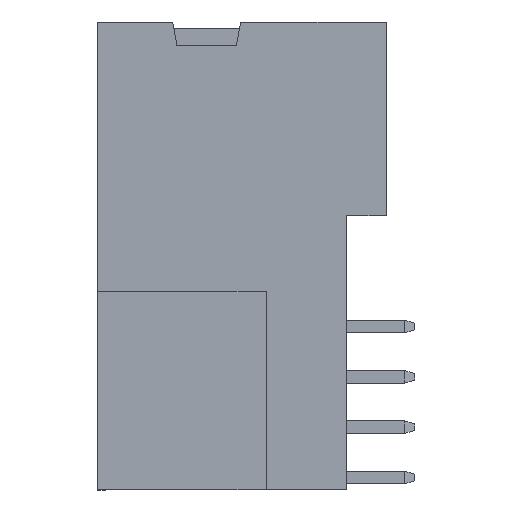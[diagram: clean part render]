
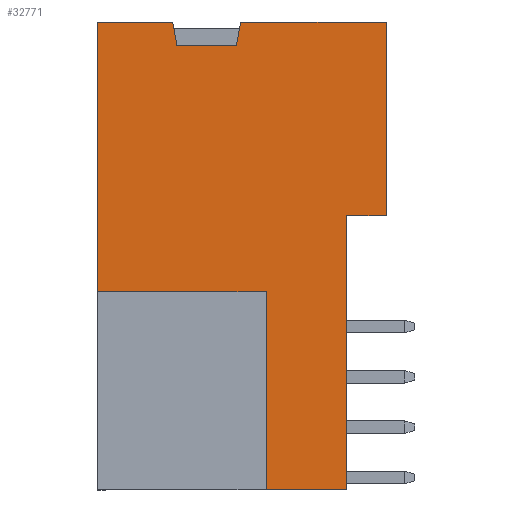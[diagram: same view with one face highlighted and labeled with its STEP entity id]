
A CAD part, left-side view. The second image highlights one B-rep face of the part: STEP entity #32771.
In plain terms, the highlighted planar face has unit normal (-1, 0, 0).
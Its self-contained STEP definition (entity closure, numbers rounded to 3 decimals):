
#62 = CARTESIAN_POINT ( 'NONE',  ( -58.836, 11.376, 10.61 ) ) ;
#90 = CARTESIAN_POINT ( 'NONE',  ( -58.836, 14.376, 10.61 ) ) ;
#368 = LINE ( 'NONE', #389, #9968 ) ;
#389 = CARTESIAN_POINT ( 'NONE',  ( -58.836, 18.346, -1.81 ) ) ;
#390 = LINE ( 'NONE', #407, #9050 ) ;
#391 = DIRECTION ( 'NONE',  ( 0., -1., 0. ) ) ;
#395 = LINE ( 'NONE', #419, #9614 ) ;
#400 = LINE ( 'NONE', #401, #9807 ) ;
#401 = CARTESIAN_POINT ( 'NONE',  ( -58.836, 18.346, 11.81 ) ) ;
#402 = DIRECTION ( 'NONE',  ( 0., 1., 0. ) ) ;
#407 = CARTESIAN_POINT ( 'NONE',  ( -58.836, 10.662, -10.455 ) ) ;
#408 = DIRECTION ( 'NONE',  ( 0., 0.174, 0.985 ) ) ;
#412 = LINE ( 'NONE', #413, #9159 ) ;
#413 = CARTESIAN_POINT ( 'NONE',  ( -58.836, 11.376, 10.61 ) ) ;
#414 = DIRECTION ( 'NONE',  ( 0., 1., 0. ) ) ;
#419 = CARTESIAN_POINT ( 'NONE',  ( -58.836, 15.421, -12.326 ) ) ;
#420 = DIRECTION ( 'NONE',  ( 0., 0.174, -0.985 ) ) ;
#424 = LINE ( 'NONE', #425, #9752 ) ;
#425 = CARTESIAN_POINT ( 'NONE',  ( -58.836, 18.346, 11.81 ) ) ;
#426 = DIRECTION ( 'NONE',  ( 0., 1., 0. ) ) ;
#433 = LINE ( 'NONE', #434, #9695 ) ;
#434 = CARTESIAN_POINT ( 'NONE',  ( -58.836, 3.806, -11.81 ) ) ;
#435 = DIRECTION ( 'NONE',  ( 0., 0., 1. ) ) ;
#1631 = LINE ( 'NONE', #1632, #9262 ) ;
#1632 = CARTESIAN_POINT ( 'NONE',  ( -58.836, 3.766, 2.03 ) ) ;
#1633 = DIRECTION ( 'NONE',  ( 0., -1., 0. ) ) ;
#5561 = ORIENTED_EDGE ( 'NONE', *, *, #33301, .T. ) ;
#5563 = ORIENTED_EDGE ( 'NONE', *, *, #13922, .T. ) ;
#5565 = ORIENTED_EDGE ( 'NONE', *, *, #33225, .F. ) ;
#5567 = ORIENTED_EDGE ( 'NONE', *, *, #13926, .T. ) ;
#5569 = ORIENTED_EDGE ( 'NONE', *, *, #13928, .T. ) ;
#5571 = ORIENTED_EDGE ( 'NONE', *, *, #13930, .T. ) ;
#5573 = ORIENTED_EDGE ( 'NONE', *, *, #13932, .T. ) ;
#5575 = ORIENTED_EDGE ( 'NONE', *, *, #13934, .T. ) ;
#5576 = ORIENTED_EDGE ( 'NONE', *, *, #13937, .T. ) ;
#5577 = ORIENTED_EDGE ( 'NONE', *, *, #23612, .T. ) ;
#5578 = ORIENTED_EDGE ( 'NONE', *, *, #33305, .T. ) ;
#5580 = ORIENTED_EDGE ( 'NONE', *, *, #33303, .F. ) ;
#7259 = VECTOR ( 'NONE', #21336, 1000. ) ;
#7261 = VECTOR ( 'NONE', #21360, 1000. ) ;
#7525 = VECTOR ( 'NONE', #21349, 1000. ) ;
#7821 = AXIS2_PLACEMENT_3D ( 'NONE', #41031, #41043, #41044 ) ;
#7985 = VECTOR ( 'NONE', #20854, 1000. ) ;
#9050 = VECTOR ( 'NONE', #408, 1000. ) ;
#9159 = VECTOR ( 'NONE', #414, 1000. ) ;
#9262 = VECTOR ( 'NONE', #1633, 1000. ) ;
#9614 = VECTOR ( 'NONE', #420, 1000. ) ;
#9695 = VECTOR ( 'NONE', #435, 1000. ) ;
#9752 = VECTOR ( 'NONE', #426, 1000. ) ;
#9807 = VECTOR ( 'NONE', #402, 1000. ) ;
#9968 = VECTOR ( 'NONE', #391, 1000. ) ;
#10568 = VERTEX_POINT ( 'NONE', #31431 ) ;
#10672 = VERTEX_POINT ( 'NONE', #31457 ) ;
#10765 = VERTEX_POINT ( 'NONE', #31484 ) ;
#10767 = VERTEX_POINT ( 'NONE', #31486 ) ;
#10852 = VERTEX_POINT ( 'NONE', #31500 ) ;
#10966 = VERTEX_POINT ( 'NONE', #31535 ) ;
#11089 = VERTEX_POINT ( 'NONE', #62 ) ;
#11206 = VERTEX_POINT ( 'NONE', #90 ) ;
#12893 = CARTESIAN_POINT ( 'NONE',  ( -58.836, 5.816, -11.81 ) ) ;
#12894 = CARTESIAN_POINT ( 'NONE',  ( -58.836, 9.876, -11.81 ) ) ;
#13568 = CARTESIAN_POINT ( 'NONE',  ( -58.836, 5.816, 2.03 ) ) ;
#13834 = CARTESIAN_POINT ( 'NONE',  ( -58.836, 9.876, -1.81 ) ) ;
#13922 = EDGE_CURVE ( 'NONE', #10672, #30280, #368, .T. ) ;
#13926 = EDGE_CURVE ( 'NONE', #10852, #10966, #400, .T. ) ;
#13928 = EDGE_CURVE ( 'NONE', #11206, #10852, #390, .T. ) ;
#13930 = EDGE_CURVE ( 'NONE', #11089, #11206, #412, .T. ) ;
#13932 = EDGE_CURVE ( 'NONE', #10767, #11089, #395, .T. ) ;
#13934 = EDGE_CURVE ( 'NONE', #10568, #10767, #424, .T. ) ;
#13937 = EDGE_CURVE ( 'NONE', #10765, #10568, #433, .T. ) ;
#20849 = LINE ( 'NONE', #20852, #7985 ) ;
#20852 = CARTESIAN_POINT ( 'NONE',  ( -58.836, 18.386, -11.81 ) ) ;
#20854 = DIRECTION ( 'NONE',  ( 0., 0., 1. ) ) ;
#21302 = LINE ( 'NONE', #21356, #7261 ) ;
#21331 = LINE ( 'NONE', #21334, #7259 ) ;
#21334 = CARTESIAN_POINT ( 'NONE',  ( -58.836, 9.876, -1.805 ) ) ;
#21336 = DIRECTION ( 'NONE',  ( 0., 0., -1. ) ) ;
#21344 = LINE ( 'NONE', #21347, #7525 ) ;
#21347 = CARTESIAN_POINT ( 'NONE',  ( -58.836, 18.346, -11.81 ) ) ;
#21349 = DIRECTION ( 'NONE',  ( 0., 1., 0. ) ) ;
#21356 = CARTESIAN_POINT ( 'NONE',  ( -58.836, 5.816, -11.81 ) ) ;
#21360 = DIRECTION ( 'NONE',  ( 0., 0., 1. ) ) ;
#23612 = EDGE_CURVE ( 'NONE', #27808, #10765, #1631, .T. ) ;
#25461 = VERTEX_POINT ( 'NONE', #12893 ) ;
#25463 = VERTEX_POINT ( 'NONE', #12894 ) ;
#27224 = EDGE_LOOP ( 'NONE', ( #5580, #5578, #5577, #5576, #5575, #5573, #5571, #5569, #5567, #5565, #5563, #5561 ) ) ;
#27808 = VERTEX_POINT ( 'NONE', #13568 ) ;
#30280 = VERTEX_POINT ( 'NONE', #13834 ) ;
#31431 = CARTESIAN_POINT ( 'NONE',  ( -58.836, 3.806, 11.81 ) ) ;
#31457 = CARTESIAN_POINT ( 'NONE',  ( -58.836, 18.386, -1.81 ) ) ;
#31484 = CARTESIAN_POINT ( 'NONE',  ( -58.836, 3.806, 2.03 ) ) ;
#31486 = CARTESIAN_POINT ( 'NONE',  ( -58.836, 11.165, 11.81 ) ) ;
#31500 = CARTESIAN_POINT ( 'NONE',  ( -58.836, 14.588, 11.81 ) ) ;
#31535 = CARTESIAN_POINT ( 'NONE',  ( -58.836, 18.386, 11.81 ) ) ;
#32771 = ADVANCED_FACE ( 'NONE', ( #41037 ), #41041, .T. ) ;
#33225 = EDGE_CURVE ( 'NONE', #10672, #10966, #20849, .T. ) ;
#33301 = EDGE_CURVE ( 'NONE', #30280, #25463, #21331, .T. ) ;
#33303 = EDGE_CURVE ( 'NONE', #25461, #25463, #21344, .T. ) ;
#33305 = EDGE_CURVE ( 'NONE', #25461, #27808, #21302, .T. ) ;
#41031 = CARTESIAN_POINT ( 'NONE',  ( -58.836, 18.346, -11.81 ) ) ;
#41037 = FACE_OUTER_BOUND ( 'NONE', #27224, .T. ) ;
#41041 = PLANE ( 'NONE',  #7821 ) ;
#41043 = DIRECTION ( 'NONE',  ( -1., 0., 0. ) ) ;
#41044 = DIRECTION ( 'NONE',  ( 0., 0., 1. ) ) ;
